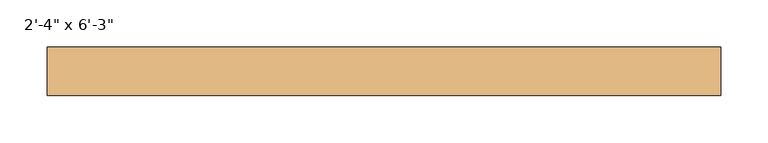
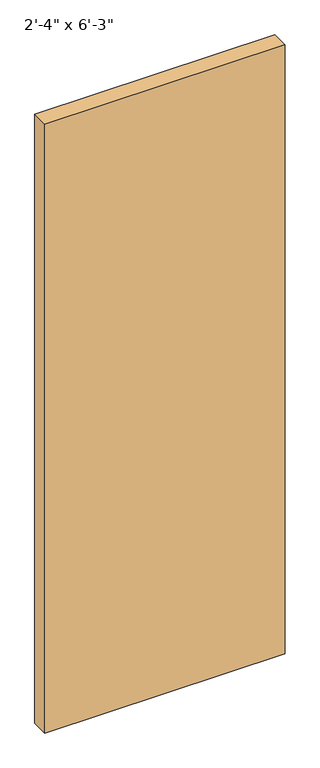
"""IFC4 building model written with IfcOpenShell, lengths in millimetres: door geometry."""

from ifc_helpers import new_model, si_unit, origin, origin_with_axes, place, context, project, spatial, polyline, outline, extrude, source, transform, mapped, element, save


def door_a2d1f694(model_context):
    return source(origin(), model_context, "Body", "SweptSolid", [
        extrude(outline(polyline([(355.6, -56.9515625), (355.6, -107.95), (-355.6, -107.95), (-355.6, -56.9515625), (355.6, -56.9515625)])), origin_with_axes(), (0.0, 0.0, 1.0), 1905.0),
    ])


if __name__ == "__main__":
    model = new_model("IFC4")
    model_context = context("Model", 3, world=origin())
    ifc_project = project(units=[si_unit("LENGTHUNIT", "METRE", prefix="MILLI")], contexts=[model_context])
    site = spatial("IfcSite", under=ifc_project)
    building = spatial("IfcBuilding", under=site)
    placement = place(None, origin())
    door_shape = door_a2d1f694(model_context)
    element("IfcDoor", 1, ObjectType="Planitar - Single Door_Flush Panel : 2'-4\" x 6'-3\"", at=placement, inside=building, context=model_context, shape_type="MappedRepresentation", body=[
        mapped(door_shape, transform((0.0, 0.0, 0.0), x_axis=(1.0, 0.0, 0.0), y_axis=(0.0, 1.0, 0.0), z_axis=(0.0, 0.0, 1.0))),
    ])
    save(model, "model.ifc")
